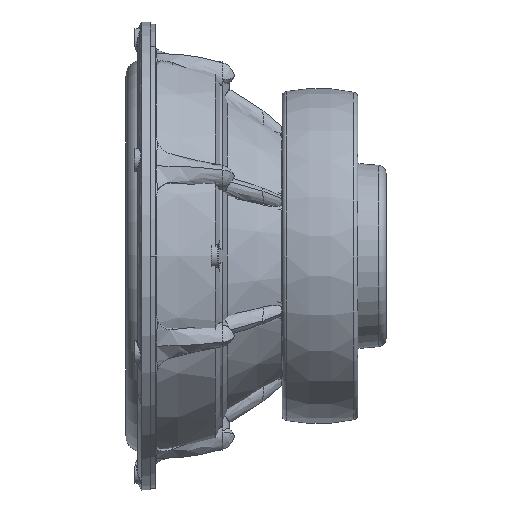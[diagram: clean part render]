
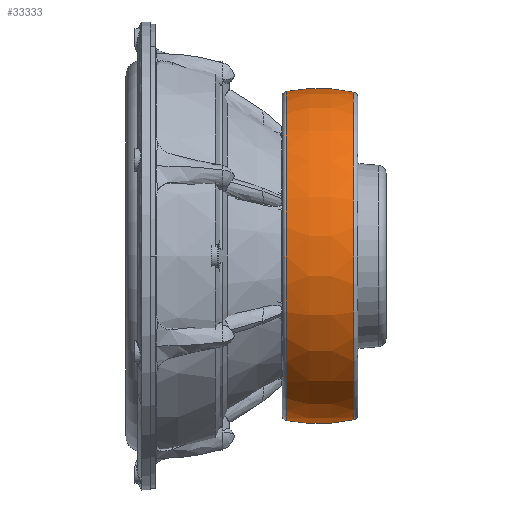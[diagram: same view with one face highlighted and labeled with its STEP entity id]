
A CAD part, left-side view. The second image highlights one B-rep face of the part: STEP entity #33333.
In plain terms, the highlighted toroidal (fillet/blend) face has major radius 0.248 mm and minor radius 100 mm.
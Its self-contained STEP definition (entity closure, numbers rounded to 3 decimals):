
#808 = CARTESIAN_POINT ( 'NONE',  ( 0., 59.67, 0. ) ) ;
#2027 = EDGE_LOOP ( 'NONE', ( #59369, #114467, #36317, #51327 ) ) ;
#2550 = CIRCLE ( 'NONE', #108154, 98.425 ) ;
#7322 = EDGE_CURVE ( 'NONE', #78307, #29083, #2550, .T. ) ;
#8949 = CARTESIAN_POINT ( 'NONE',  ( 0., 40.662, 0. ) ) ;
#10322 = CIRCLE ( 'NONE', #38623, 100. ) ;
#18771 = DIRECTION ( 'NONE',  ( 0., 0., -1. ) ) ;
#21516 = DIRECTION ( 'NONE',  ( 1., 0., 0. ) ) ;
#23759 = AXIS2_PLACEMENT_3D ( 'NONE', #109684, #28204, #18771 ) ;
#28204 = DIRECTION ( 'NONE',  ( 0., -1., 0. ) ) ;
#29083 = VERTEX_POINT ( 'NONE', #38317 ) ;
#33333 = ADVANCED_FACE ( 'NONE', ( #115786 ), #85240, .T. ) ;
#34770 = DIRECTION ( 'NONE',  ( 0., 0., 1. ) ) ;
#35210 = CARTESIAN_POINT ( 'NONE',  ( 0., 19.258, -97.93 ) ) ;
#36317 = ORIENTED_EDGE ( 'NONE', *, *, #63205, .T. ) ;
#38317 = CARTESIAN_POINT ( 'NONE',  ( 0., 59.67, -98.425 ) ) ;
#38623 = AXIS2_PLACEMENT_3D ( 'NONE', #112422, #21516, #41621 ) ;
#41621 = DIRECTION ( 'NONE',  ( 0., 0., -1. ) ) ;
#51327 = ORIENTED_EDGE ( 'NONE', *, *, #84394, .F. ) ;
#59369 = ORIENTED_EDGE ( 'NONE', *, *, #63595, .F. ) ;
#61754 = DIRECTION ( 'NONE',  ( 0., -1., 0. ) ) ;
#63205 = EDGE_CURVE ( 'NONE', #29083, #94544, #65008, .T. ) ;
#63595 = EDGE_CURVE ( 'NONE', #78307, #83907, #10322, .T. ) ;
#64505 = DIRECTION ( 'NONE',  ( 0., 0., -1. ) ) ;
#65008 = CIRCLE ( 'NONE', #110218, 100. ) ;
#72194 = DIRECTION ( 'NONE',  ( 0., -1., 0. ) ) ;
#74007 = AXIS2_PLACEMENT_3D ( 'NONE', #8949, #72194, #64505 ) ;
#76908 = CARTESIAN_POINT ( 'NONE',  ( 0., 19.258, 97.93 ) ) ;
#78307 = VERTEX_POINT ( 'NONE', #81197 ) ;
#80198 = CARTESIAN_POINT ( 'NONE',  ( 0., 40.662, -0.248 ) ) ;
#81197 = CARTESIAN_POINT ( 'NONE',  ( 0., 59.67, 98.425 ) ) ;
#83907 = VERTEX_POINT ( 'NONE', #76908 ) ;
#84394 = EDGE_CURVE ( 'NONE', #83907, #94544, #97234, .T. ) ;
#85240 = TOROIDAL_SURFACE ( 'NONE', #74007, 0.248, 100. ) ;
#94544 = VERTEX_POINT ( 'NONE', #35210 ) ;
#97234 = CIRCLE ( 'NONE', #23759, 97.93 ) ;
#104569 = DIRECTION ( 'NONE',  ( -1., 0., 0. ) ) ;
#107106 = DIRECTION ( 'NONE',  ( 0., 0., -1. ) ) ;
#108154 = AXIS2_PLACEMENT_3D ( 'NONE', #808, #61754, #107106 ) ;
#109684 = CARTESIAN_POINT ( 'NONE',  ( 0., 19.258, 0. ) ) ;
#110218 = AXIS2_PLACEMENT_3D ( 'NONE', #80198, #104569, #34770 ) ;
#112422 = CARTESIAN_POINT ( 'NONE',  ( 0., 40.662, 0.248 ) ) ;
#114467 = ORIENTED_EDGE ( 'NONE', *, *, #7322, .T. ) ;
#115786 = FACE_OUTER_BOUND ( 'NONE', #2027, .T. ) ;
